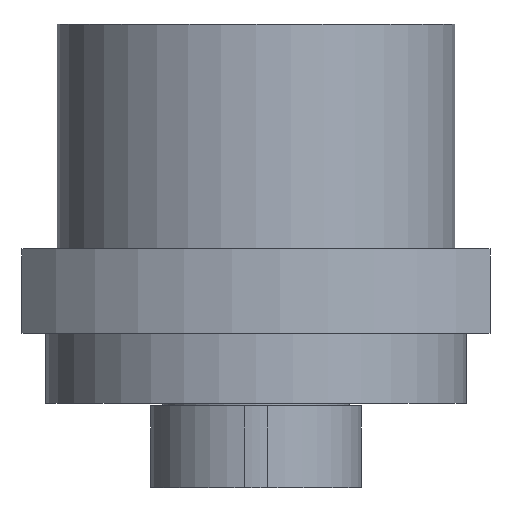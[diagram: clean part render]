
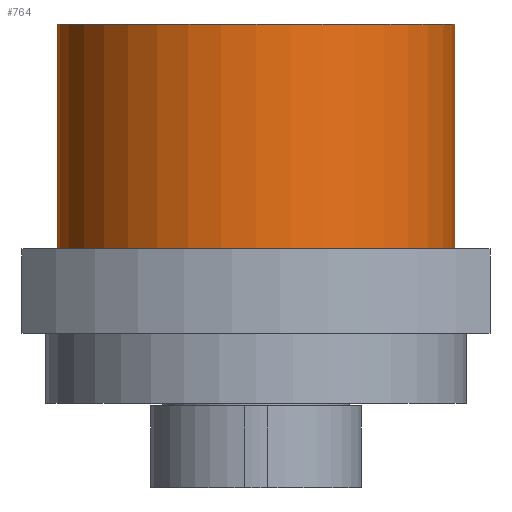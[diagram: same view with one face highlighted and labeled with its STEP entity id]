
A CAD part, front view. The second image highlights one B-rep face of the part: STEP entity #764.
In plain terms, the highlighted cylindrical face has radius 42.5 mm (diameter 85 mm), a full revolution.
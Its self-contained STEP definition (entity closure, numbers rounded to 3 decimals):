
#37=CYLINDRICAL_SURFACE($,#868,42.5);
#140=FACE_BOUND($,#280,.T.);
#199=FACE_OUTER_BOUND($,#279,.T.);
#279=EDGE_LOOP($,(#653));
#280=EDGE_LOOP($,(#654));
#354=CIRCLE($,#869,42.5);
#355=CIRCLE($,#870,42.5);
#422=VERTEX_POINT($,#1313);
#423=VERTEX_POINT($,#1315);
#506=EDGE_CURVE($,#422,#422,#354,.T.);
#507=EDGE_CURVE($,#423,#423,#355,.T.);
#653=ORIENTED_EDGE($,*,*,#506,.F.);
#654=ORIENTED_EDGE($,*,*,#507,.F.);
#764=ADVANCED_FACE($,(#199,#140),#37,.T.);
#868=AXIS2_PLACEMENT_3D($,#1312,#1094,#1095);
#869=AXIS2_PLACEMENT_3D($,#1314,#1096,#1097);
#870=AXIS2_PLACEMENT_3D($,#1316,#1098,#1099);
#1094=DIRECTION('center_axis',(0.,0.,1.));
#1095=DIRECTION('ref_axis',(-1.,0.,0.));
#1096=DIRECTION('center_axis',(0.,0.,1.));
#1097=DIRECTION('ref_axis',(-1.,0.,0.));
#1098=DIRECTION('center_axis',(0.,0.,-1.));
#1099=DIRECTION('ref_axis',(-1.,0.,0.));
#1312=CARTESIAN_POINT('Origin',(0.,0.,19.));
#1313=CARTESIAN_POINT('',(42.5,0.,67.));
#1314=CARTESIAN_POINT('Origin',(0.,0.,67.));
#1315=CARTESIAN_POINT('',(42.5,0.,19.));
#1316=CARTESIAN_POINT('Origin',(0.,0.,19.));
